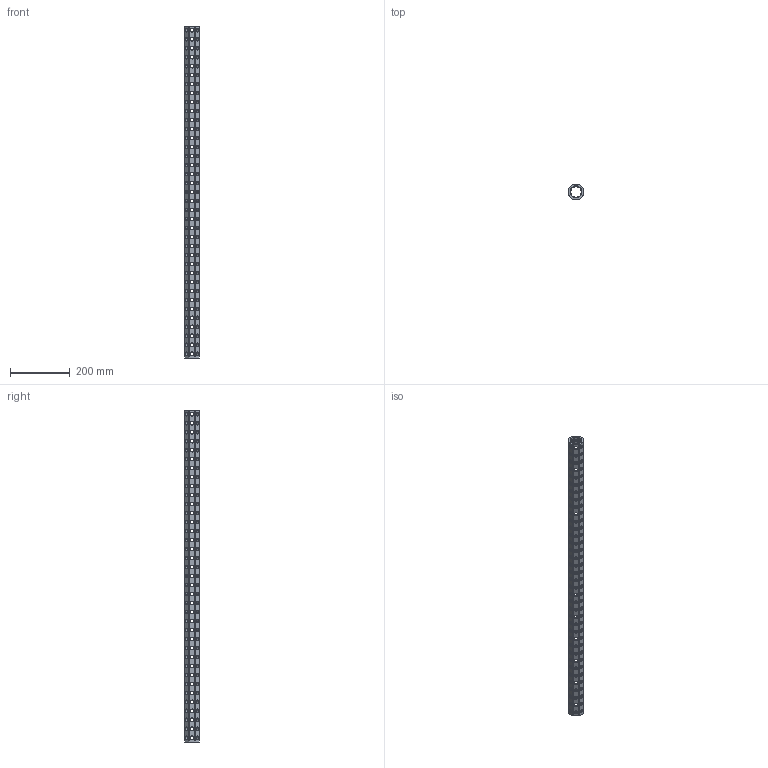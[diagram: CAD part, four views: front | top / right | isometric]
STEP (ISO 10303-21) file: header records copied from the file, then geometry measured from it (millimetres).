
FILE_DESCRIPTION(('CATIA V5 STEP Exchange'),'2;1');
FILE_NAME('U:\Room\唐宝山\EGT002\46-01-010266-01-EGT002-1108.stp','2021-08-24T01:15:40+00:00',('none'),('none'),'CATIA Version 5 Release 21 GA (IN-10)','CATIA V5 STEP AP203','none');
FILE_SCHEMA(('CONFIG_CONTROL_DESIGN'));
Products named in the file (1): 46-01-010266-01-EGT002-1108
Bounding box: 50 x 50 x 1108 mm (x, y, z)
Volume: 789325.9 mm3; surface area: 381347.8 mm2
Topology: 1 solids, 1 shells, 1564 faces, 4316 edges, 2680 vertices
Faces by surface type: cone 888, cylinder 650, plane 26
Entity records: 67727 total; most frequent: CARTESIAN_POINT 30242, ORIENTED_EDGE 8632, DIRECTION 5880, EDGE_CURVE 4316, VERTEX_POINT 2680, AXIS2_PLACEMENT_3D 2633, EDGE_LOOP 2084, VECTOR 1684
